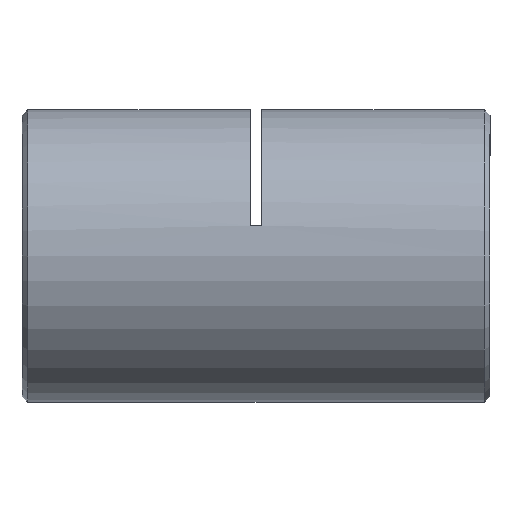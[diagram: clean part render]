
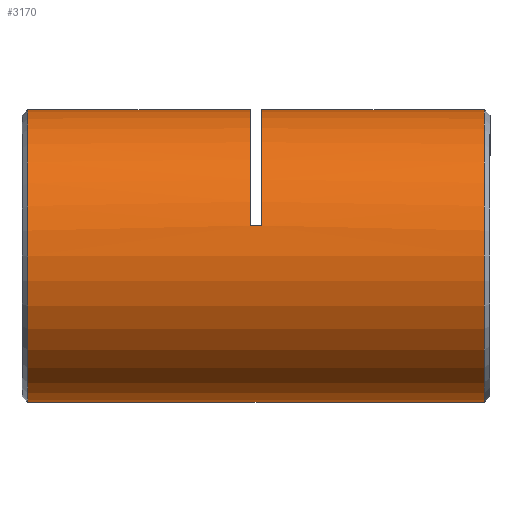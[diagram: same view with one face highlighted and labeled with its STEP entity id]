
A CAD part, left-side view. The second image highlights one B-rep face of the part: STEP entity #3170.
In plain terms, the highlighted cylindrical face has radius 12.5 mm (diameter 25 mm), a partial arc.
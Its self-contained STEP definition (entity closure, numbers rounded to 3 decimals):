
#166 = VERTEX_POINT ( 'NONE', #1039 ) ;
#247 = EDGE_CURVE ( 'NONE', #5470, #2631, #4720, .T. ) ;
#319 = DIRECTION ( 'NONE',  ( 0., 1., 0. ) ) ;
#333 = ORIENTED_EDGE ( 'NONE', *, *, #4730, .F. ) ;
#342 = CARTESIAN_POINT ( 'NONE',  ( 0., 40.5, 12.5 ) ) ;
#564 = CARTESIAN_POINT ( 'NONE',  ( 0., 19.75, 12.5 ) ) ;
#685 = EDGE_CURVE ( 'NONE', #4753, #5470, #1703, .T. ) ;
#803 = DIRECTION ( 'NONE',  ( 0., 0., 1. ) ) ;
#850 = DIRECTION ( 'NONE',  ( 0., -1., 0. ) ) ;
#906 = CARTESIAN_POINT ( 'NONE',  ( 0., 40.5, -12.5 ) ) ;
#1030 = VERTEX_POINT ( 'NONE', #1941 ) ;
#1039 = CARTESIAN_POINT ( 'NONE',  ( 0., 20.75, 12.5 ) ) ;
#1125 = CIRCLE ( 'NONE', #1886, 12.5 ) ;
#1368 = CARTESIAN_POINT ( 'NONE',  ( 0., 0.75, 12.5 ) ) ;
#1393 = ORIENTED_EDGE ( 'NONE', *, *, #2517, .T. ) ;
#1603 = ORIENTED_EDGE ( 'NONE', *, *, #247, .F. ) ;
#1654 = AXIS2_PLACEMENT_3D ( 'NONE', #5734, #3482, #803 ) ;
#1674 = DIRECTION ( 'NONE',  ( 0., 0., 1. ) ) ;
#1703 = CIRCLE ( 'NONE', #5769, 12.5 ) ;
#1817 = CARTESIAN_POINT ( 'NONE',  ( -12.226, 19.75, 2.604 ) ) ;
#1886 = AXIS2_PLACEMENT_3D ( 'NONE', #3043, #4926, #3488 ) ;
#1941 = CARTESIAN_POINT ( 'NONE',  ( 0., 39.75, 12.5 ) ) ;
#1979 = CIRCLE ( 'NONE', #5281, 12.5 ) ;
#2009 = ORIENTED_EDGE ( 'NONE', *, *, #3525, .T. ) ;
#2050 = DIRECTION ( 'NONE',  ( 0., -1., 0. ) ) ;
#2075 = EDGE_LOOP ( 'NONE', ( #333, #3736, #2009, #3502, #1603, #2493, #3814, #1393 ) ) ;
#2130 = CYLINDRICAL_SURFACE ( 'NONE', #5372, 12.5 ) ;
#2174 = CARTESIAN_POINT ( 'NONE',  ( -12.226, 20.25, 2.604 ) ) ;
#2226 = LINE ( 'NONE', #906, #2906 ) ;
#2493 = ORIENTED_EDGE ( 'NONE', *, *, #685, .F. ) ;
#2517 = EDGE_CURVE ( 'NONE', #3466, #166, #4382, .T. ) ;
#2609 = LINE ( 'NONE', #2174, #2634 ) ;
#2612 = CARTESIAN_POINT ( 'NONE',  ( 0., 0.75, -12.5 ) ) ;
#2631 = VERTEX_POINT ( 'NONE', #1368 ) ;
#2634 = VECTOR ( 'NONE', #2710, 1000. ) ;
#2668 = DIRECTION ( 'NONE',  ( 0., -1., 0. ) ) ;
#2710 = DIRECTION ( 'NONE',  ( 0., 1., 0. ) ) ;
#2851 = DIRECTION ( 'NONE',  ( 0., 0., 1. ) ) ;
#2906 = VECTOR ( 'NONE', #3519, 1000. ) ;
#3043 = CARTESIAN_POINT ( 'NONE',  ( 0., 39.75, 0. ) ) ;
#3097 = CARTESIAN_POINT ( 'NONE',  ( 0., 40.5, 0. ) ) ;
#3170 = ADVANCED_FACE ( 'NONE', ( #5830 ), #2130, .T. ) ;
#3237 = VERTEX_POINT ( 'NONE', #4857 ) ;
#3374 = LINE ( 'NONE', #342, #4241 ) ;
#3403 = EDGE_CURVE ( 'NONE', #1030, #3237, #1125, .T. ) ;
#3466 = VERTEX_POINT ( 'NONE', #5739 ) ;
#3482 = DIRECTION ( 'NONE',  ( 0., 1., 0. ) ) ;
#3488 = DIRECTION ( 'NONE',  ( 0., 0., -1. ) ) ;
#3502 = ORIENTED_EDGE ( 'NONE', *, *, #3979, .T. ) ;
#3519 = DIRECTION ( 'NONE',  ( 0., -1., 0. ) ) ;
#3525 = EDGE_CURVE ( 'NONE', #3237, #5338, #2226, .T. ) ;
#3736 = ORIENTED_EDGE ( 'NONE', *, *, #3403, .T. ) ;
#3814 = ORIENTED_EDGE ( 'NONE', *, *, #4588, .T. ) ;
#3979 = EDGE_CURVE ( 'NONE', #5338, #2631, #1979, .T. ) ;
#4241 = VECTOR ( 'NONE', #850, 1000. ) ;
#4327 = CARTESIAN_POINT ( 'NONE',  ( 0., 40.5, 12.5 ) ) ;
#4382 = CIRCLE ( 'NONE', #1654, 12.5 ) ;
#4394 = CARTESIAN_POINT ( 'NONE',  ( 0., 19.75, 0. ) ) ;
#4396 = CARTESIAN_POINT ( 'NONE',  ( 0., 0.75, 0. ) ) ;
#4588 = EDGE_CURVE ( 'NONE', #4753, #3466, #2609, .T. ) ;
#4720 = LINE ( 'NONE', #4327, #4737 ) ;
#4730 = EDGE_CURVE ( 'NONE', #1030, #166, #3374, .T. ) ;
#4737 = VECTOR ( 'NONE', #2050, 1000. ) ;
#4753 = VERTEX_POINT ( 'NONE', #1817 ) ;
#4857 = CARTESIAN_POINT ( 'NONE',  ( 0., 39.75, -12.5 ) ) ;
#4926 = DIRECTION ( 'NONE',  ( 0., -1., 0. ) ) ;
#5110 = DIRECTION ( 'NONE',  ( 0., 1., 0. ) ) ;
#5281 = AXIS2_PLACEMENT_3D ( 'NONE', #4396, #5110, #2851 ) ;
#5295 = DIRECTION ( 'NONE',  ( 0., 0., -1. ) ) ;
#5338 = VERTEX_POINT ( 'NONE', #2612 ) ;
#5372 = AXIS2_PLACEMENT_3D ( 'NONE', #3097, #2668, #5295 ) ;
#5470 = VERTEX_POINT ( 'NONE', #564 ) ;
#5734 = CARTESIAN_POINT ( 'NONE',  ( 0., 20.75, 0. ) ) ;
#5739 = CARTESIAN_POINT ( 'NONE',  ( -12.226, 20.75, 2.604 ) ) ;
#5769 = AXIS2_PLACEMENT_3D ( 'NONE', #4394, #319, #1674 ) ;
#5830 = FACE_OUTER_BOUND ( 'NONE', #2075, .T. ) ;
